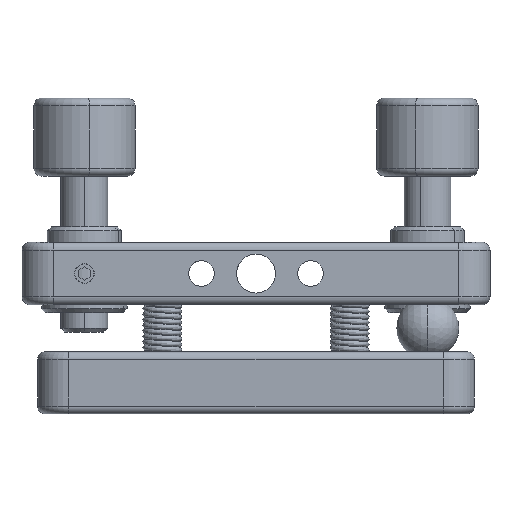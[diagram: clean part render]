
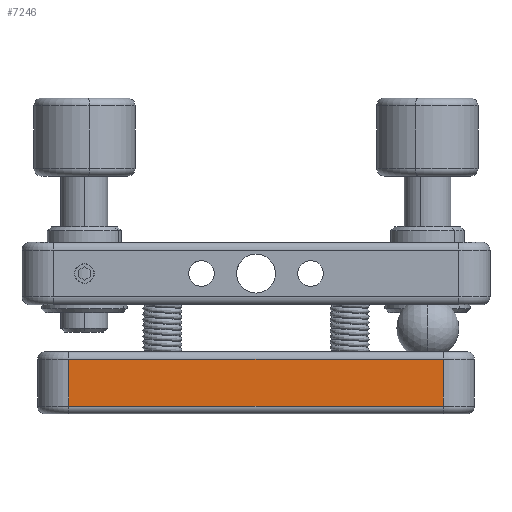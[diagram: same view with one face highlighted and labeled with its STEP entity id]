
A CAD part, left-side view. The second image highlights one B-rep face of the part: STEP entity #7246.
In plain terms, the highlighted planar face has unit normal (-1, 0, 0).
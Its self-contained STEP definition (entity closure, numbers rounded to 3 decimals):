
#16 = VECTOR ( 'NONE', #1465, 1000. ) ;
#157 = CARTESIAN_POINT ( 'NONE',  ( -28., 24., -17. ) ) ;
#556 = LINE ( 'NONE', #939, #8061 ) ;
#610 = ORIENTED_EDGE ( 'NONE', *, *, #9556, .T. ) ;
#939 = CARTESIAN_POINT ( 'NONE',  ( -28., 24., -10. ) ) ;
#950 = CARTESIAN_POINT ( 'NONE',  ( -28., 24., -11. ) ) ;
#1247 = AXIS2_PLACEMENT_3D ( 'NONE', #7337, #10275, #1541 ) ;
#1465 = DIRECTION ( 'NONE',  ( 0., 0., 1. ) ) ;
#1541 = DIRECTION ( 'NONE',  ( 0., 0., 1. ) ) ;
#1789 = DIRECTION ( 'NONE',  ( 0., -1., 0. ) ) ;
#2156 = VERTEX_POINT ( 'NONE', #9216 ) ;
#2323 = LINE ( 'NONE', #17364, #4666 ) ;
#4585 = VERTEX_POINT ( 'NONE', #950 ) ;
#4666 = VECTOR ( 'NONE', #15976, 1000. ) ;
#5367 = DIRECTION ( 'NONE',  ( 0., 0., -1. ) ) ;
#5660 = ORIENTED_EDGE ( 'NONE', *, *, #13721, .T. ) ;
#5824 = LINE ( 'NONE', #6004, #5843 ) ;
#5835 = ORIENTED_EDGE ( 'NONE', *, *, #14787, .T. ) ;
#5843 = VECTOR ( 'NONE', #1789, 1000. ) ;
#6004 = CARTESIAN_POINT ( 'NONE',  ( -28., -24., -17. ) ) ;
#6585 = EDGE_LOOP ( 'NONE', ( #610, #5835, #18234, #5660 ) ) ;
#7246 = ADVANCED_FACE ( 'NONE', ( #11259 ), #14485, .F. ) ;
#7337 = CARTESIAN_POINT ( 'NONE',  ( -28., 28., -10. ) ) ;
#8061 = VECTOR ( 'NONE', #5367, 1000. ) ;
#9216 = CARTESIAN_POINT ( 'NONE',  ( -28., -24., -11. ) ) ;
#9556 = EDGE_CURVE ( 'NONE', #4585, #16071, #556, .T. ) ;
#9916 = EDGE_CURVE ( 'NONE', #16297, #2156, #17215, .T. ) ;
#10275 = DIRECTION ( 'NONE',  ( 1., 0., 0. ) ) ;
#11259 = FACE_OUTER_BOUND ( 'NONE', #6585, .T. ) ;
#13721 = EDGE_CURVE ( 'NONE', #2156, #4585, #2323, .T. ) ;
#14412 = CARTESIAN_POINT ( 'NONE',  ( -28., -24., -10. ) ) ;
#14485 = PLANE ( 'NONE',  #1247 ) ;
#14787 = EDGE_CURVE ( 'NONE', #16071, #16297, #5824, .T. ) ;
#15976 = DIRECTION ( 'NONE',  ( 0., 1., 0. ) ) ;
#16071 = VERTEX_POINT ( 'NONE', #157 ) ;
#16297 = VERTEX_POINT ( 'NONE', #17803 ) ;
#17215 = LINE ( 'NONE', #14412, #16 ) ;
#17364 = CARTESIAN_POINT ( 'NONE',  ( -28., 28., -11. ) ) ;
#17803 = CARTESIAN_POINT ( 'NONE',  ( -28., -24., -17. ) ) ;
#18234 = ORIENTED_EDGE ( 'NONE', *, *, #9916, .T. ) ;
